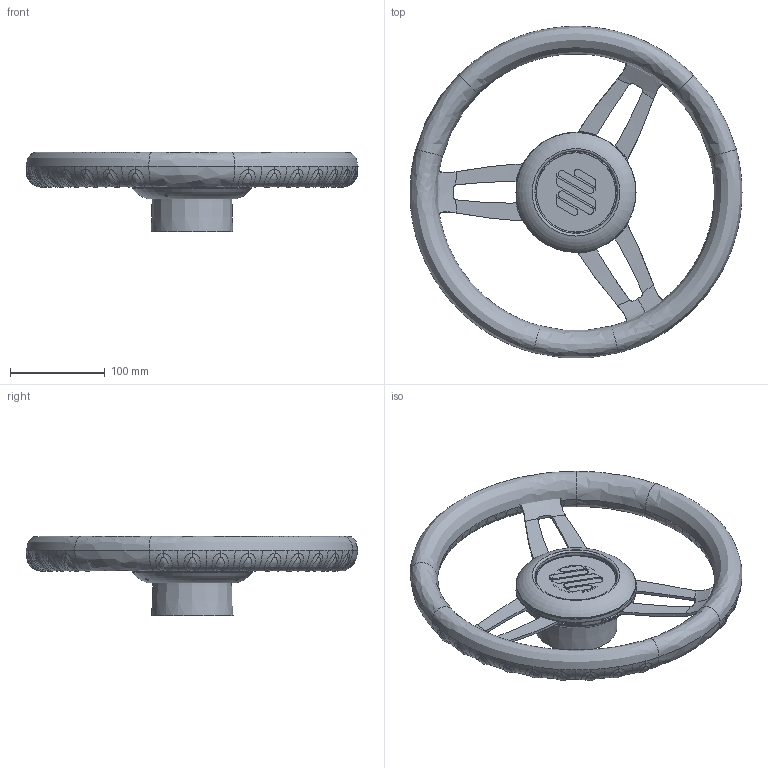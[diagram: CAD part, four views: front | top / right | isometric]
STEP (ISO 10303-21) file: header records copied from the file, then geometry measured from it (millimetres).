
FILE_DESCRIPTION(/* description */ (''),/* implementation_level */ '2;1');
FILE_NAME(/* name */ 'C:\Users\Milanese\Desktop\volanti per configuratore\FOSCARI.stp',/* time_stamp */ '2016-07-14T11:35:01+02:00',/* author */ ('Milanese'),/* organization */ (''),/* preprocessor_version */ 'ST-DEVELOPER v16.1',/* originating_system */ 'Autodesk Inventor 2016',/* authorisation */ '');
FILE_SCHEMA (('AUTOMOTIVE_DESIGN { 1 0 10303 214 3 1 1 }'));
Length unit declared in the file: millimetre
Products named in the file (11): 27330 IMPUGNATURA FOSCARI; 27410 COVER SIMMETRICA INFERIORE; 27455 COVER SIMMETRICA SUPERIORE; 27483 TARGHETTA ULTRAFLEX FOTOINCISA; 27533 PORTATARGHETTA FOSCARI; 21006 MOZZO [FILE SOLO PER INGOMBRO]; 24403b VITE TESTA PIANA [FILE SOLO PER INGOMBRO]; 27350 ANELLO ELASTICO CHIUSO; 27717 RAZZA MOROSINI-FOSCARI; MOZZO; COMPLESSIVO ASSEMBLATO FOSCARI
Assembly tree (18 placements, depth 2):
  COMPLESSIVO ASSEMBLATO FOSCARI
    27330 IMPUGNATURA FOSCARI
    27410 COVER SIMMETRICA INFERIORE
    27455 COVER SIMMETRICA SUPERIORE
    27483 TARGHETTA ULTRAFLEX FOTOINCISA
    27533 PORTATARGHETTA FOSCARI
    21006 MOZZO [FILE SOLO PER INGOMBRO]
    24403b VITE TESTA PIANA [FILE SOLO PER INGOMBRO]  x9
    27350 ANELLO ELASTICO CHIUSO
    27717 RAZZA MOROSINI-FOSCARI
    MOZZO
Bounding box: 351 x 350.35 x 84.4 mm (x, y, z)
Volume: 1140074.1 mm3; surface area: 311038 mm2
Topology: 18 solids, 18 shells, 1086 faces, 2783 edges, 1771 vertices
Faces by surface type: plane 401, cylinder 351, bspline 268, torus 26, cone 21, sphere 19
Full cylindrical faces by diameter (mm): 3 x3, 3.1 x99, 4 x12, 5 x12, 5.1 x12, 6 x30, 9.5 x9, 18.5 x1, 32 x1, 32.2 x1, 45 x1, 49.8 x1, 50 x1, 51 x1, 55.5 x3
Entity records: 57690 total; most frequent: CARTESIAN_POINT 41027, ORIENTED_EDGE 3514, DIRECTION 3216, EDGE_CURVE 1757, AXIS2_PLACEMENT_3D 1374, VERTEX_POINT 1201, EDGE_LOOP 972, CIRCLE 764
